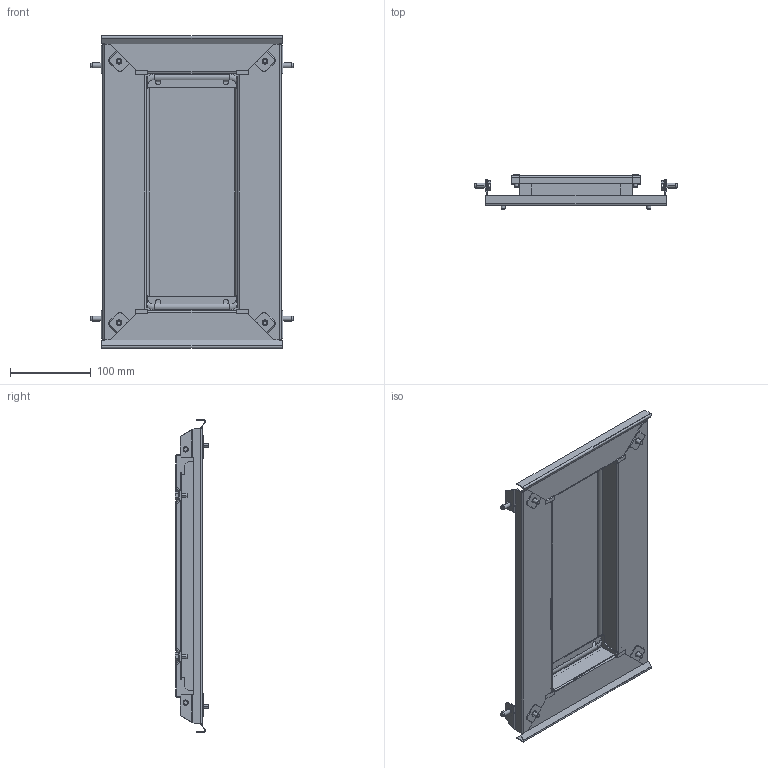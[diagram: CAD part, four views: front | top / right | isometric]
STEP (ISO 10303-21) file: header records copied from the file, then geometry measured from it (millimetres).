
FILE_DESCRIPTION((''),'2;1');
FILE_NAME('ASM0001_ASM','2021-04-01T15:48:32',('sys-22'),('Schneider-Electric'),'CREO PARAMETRIC BY PTC INC, 2018300','CREO PARAMETRIC BY PTC INC, 2018300','');
FILE_SCHEMA(('CONFIG_CONTROL_DESIGN'));
Length unit declared in the file: millimetre
Products named in the file (2): LVS08483_3D-SIMPLIFIED; ASM0001_ASM
Assembly tree (1 placements, depth 2):
  ASM0001_ASM
    LVS08483_3D-SIMPLIFIED
Bounding box: 251.1 x 42.05 x 387 mm (x, y, z)
Volume: 302965.9 mm3; surface area: 297786.3 mm2
Topology: 1 solids, 5 shells, 830 faces, 2216 edges, 1444 vertices
Faces by surface type: plane 544, cylinder 190, cone 52, torus 36, bspline 8
Entity records: 26151 total; most frequent: CARTESIAN_POINT 5061, ORIENTED_EDGE 4432, DIRECTION 4298, EDGE_CURVE 2216, VECTOR 1664, LINE 1664, VERTEX_POINT 1444, AXIS2_PLACEMENT_3D 1317
